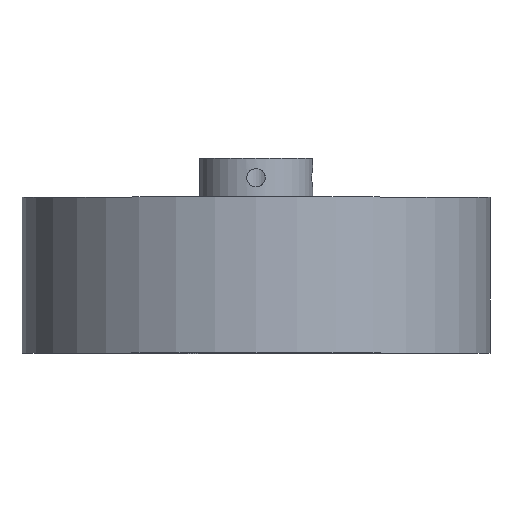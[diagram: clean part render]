
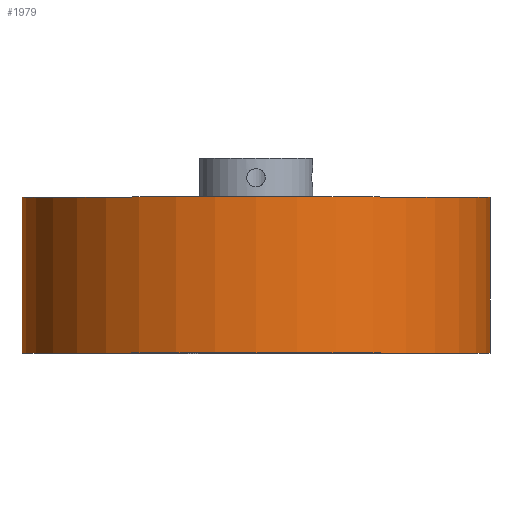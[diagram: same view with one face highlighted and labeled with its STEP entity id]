
A CAD part, top view. The second image highlights one B-rep face of the part: STEP entity #1979.
In plain terms, the highlighted cylindrical face has radius 76.2 mm (diameter 152.4 mm), a full revolution.
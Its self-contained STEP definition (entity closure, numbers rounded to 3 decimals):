
#267=FACE_OUTER_BOUND('',#361,.T.);
#361=EDGE_LOOP('',(#1620,#1621,#1622,#1623));
#547=LINE('',#3314,#693);
#693=VECTOR('',#2768,76.2);
#812=CIRCLE('',#2209,76.2);
#813=CIRCLE('',#2210,76.2);
#988=VERTEX_POINT('',#3311);
#989=VERTEX_POINT('',#3313);
#1259=EDGE_CURVE('',#988,#988,#812,.T.);
#1260=EDGE_CURVE('',#988,#989,#547,.T.);
#1261=EDGE_CURVE('',#989,#989,#813,.T.);
#1620=ORIENTED_EDGE('',*,*,#1259,.F.);
#1621=ORIENTED_EDGE('',*,*,#1260,.T.);
#1622=ORIENTED_EDGE('',*,*,#1261,.T.);
#1623=ORIENTED_EDGE('',*,*,#1260,.F.);
#1889=CYLINDRICAL_SURFACE('',#2208,76.2);
#1979=ADVANCED_FACE('',(#267),#1889,.T.);
#2208=AXIS2_PLACEMENT_3D('',#3310,#2764,#2765);
#2209=AXIS2_PLACEMENT_3D('',#3312,#2766,#2767);
#2210=AXIS2_PLACEMENT_3D('',#3315,#2769,#2770);
#2764=DIRECTION('center_axis',(0.,1.,0.));
#2765=DIRECTION('ref_axis',(-1.,0.,0.));
#2766=DIRECTION('center_axis',(0.,1.,0.));
#2767=DIRECTION('ref_axis',(-1.,0.,0.));
#2768=DIRECTION('',(0.,-1.,0.));
#2769=DIRECTION('center_axis',(0.,1.,0.));
#2770=DIRECTION('ref_axis',(-1.,0.,0.));
#3310=CARTESIAN_POINT('Origin',(0.,0.,0.));
#3311=CARTESIAN_POINT('',(76.2,50.8,0.));
#3312=CARTESIAN_POINT('Origin',(0.,50.8,0.));
#3313=CARTESIAN_POINT('',(76.2,0.,0.));
#3314=CARTESIAN_POINT('',(76.2,0.,0.));
#3315=CARTESIAN_POINT('Origin',(0.,0.,0.));
